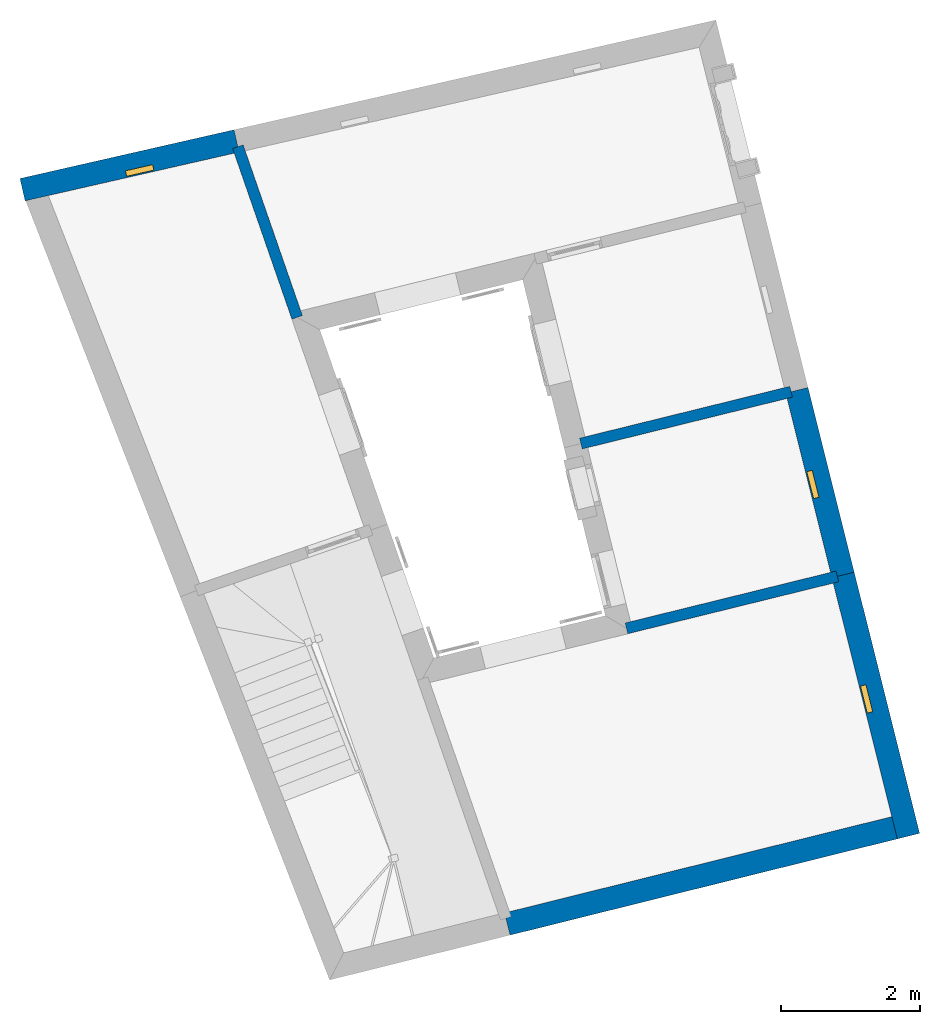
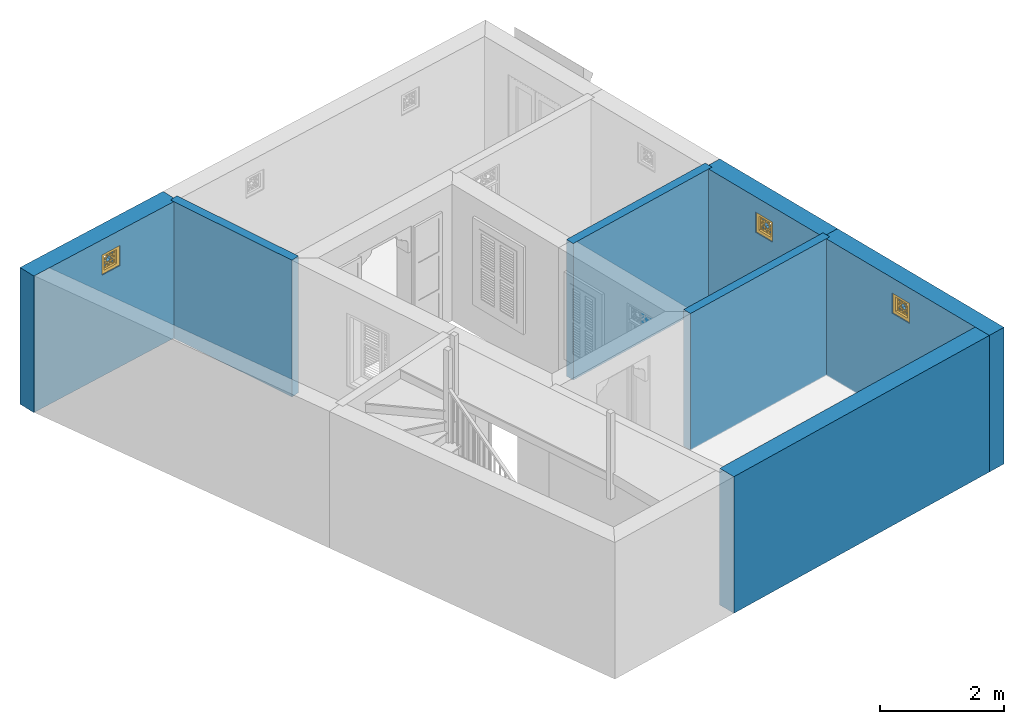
# One storey, part 6 of 12: 7 walls, 3 windows, 3 openings.
"""IFC4 building model written with IfcOpenShell, lengths in metres."""

from ifc_helpers import new_model, si_unit, frame, origin, origin_with_axes, place, context, subcontext, project, spatial, polyline, outline, extrude, faceted_brep, source, transform, mapped, material, layer, layer_set, layer_usage, type_object, type_shapes, element, fill, save


model = new_model("IFC4")

# Units and contexts
model_context = context("Model", 3, world=origin_with_axes())
body_context = subcontext(model_context, "Body", "Model", "MODEL_VIEW")
ifc_project = project(units=[si_unit("PLANEANGLEUNIT", "RADIAN"), si_unit("MASSUNIT", "GRAM", prefix="KILO"), si_unit("FORCEUNIT", "NEWTON", prefix="KILO"), si_unit("LENGTHUNIT", "METRE"), si_unit("AREAUNIT", "SQUARE_METRE"), si_unit("VOLUMEUNIT", "CUBIC_METRE")], contexts=[model_context, model_context])

# Site, building, storey
site_placement = place(None, origin_with_axes())
site = spatial("IfcSite", under=ifc_project, at=site_placement, Name="Site plot-1", CompositionType="ELEMENT")
building_placement = place(None, origin_with_axes())
building = spatial("IfcBuilding", under=site, at=building_placement, Name="Building plot-1", CompositionType="ELEMENT")
storey_placement = place(None, origin_with_axes())
storey = spatial("IfcBuildingStorey", under=building, at=storey_placement, Name="plot-1 0", CompositionType="ELEMENT", Elevation=0.0)

# Wall, opening, window
ifc_material_1 = material(Name="Masonry")
ifc_layer_1 = layer(ifc_material_1, 0.33, ventilated=False)
ifc_layer_set_1 = layer_set([ifc_layer_1], Name="exterior_0.08_0.25")
ifc_layer_usage_1 = layer_usage(ifc_layer_set_1, "AXIS2", "POSITIVE", -0.25)
wall_type_1 = type_object("IfcWallType", Name="exterior_0.08_0.25", PredefinedType="SOLIDWALL", material=ifc_layer_set_1)
wall_1_placement = place(storey_placement, frame((7.07192765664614, 15.8037351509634, 0.0), z_axis=(0.0, 0.0, 1.0), x_axis=(-0.242972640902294, 0.970033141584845, 0.0)))
wall_1 = element("IfcWall", 1, at=wall_1_placement, inside=storey, type_object=wall_type_1, material=ifc_layer_usage_1, Name="exterior", context=body_context, shape_type="SweptSolid", body=[
    extrude(outline(polyline([(-0.249999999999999, 0.0799999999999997), (-0.249999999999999, -0.25), (3.62583000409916, -0.25), (3.62583000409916, 0.08), (-0.249999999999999, 0.0799999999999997)])), origin_with_axes(), (0.0, 0.0, 1.0), 2.7),
])
opening_1_placement = place(wall_1_placement, frame((1.61291500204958, 0.0, 2.0)))
opening_1 = element("IfcOpeningElement", 2, at=opening_1_placement, cuts=wall_1, Name="My Opening", ObjectType="Opening", context=body_context, shape_type="SweptSolid", body=[
    extrude(outline(polyline([(0.0, -0.27), (0.399999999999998, -0.270000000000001), (0.399999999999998, 1.1), (-6.66133814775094e-16, 1.1), (0.0, -0.27)])), origin_with_axes(), (0.0, 0.0, 1.0), 0.4),
])
window_type = type_object("IfcWindowType", Name="barred_window", PartitioningType="DOUBLE_PANEL_HORIZONTAL", PredefinedType="NOTDEFINED")
shared_shape = source(origin(), body_context, "Body", "Brep", [
    faceted_brep([(0.4, 0.25, 0.4), (0.0, 0.25, 0.4), (0.06, 0.25, 0.34), (0.34, 0.25, 0.34), (0.06, 0.33, 0.34), (0.34, 0.33, 0.34), (0.34, 0.25, 0.06), (0.4, 0.25, 0.0), (0.4, 0.33, 0.4), (0.0, 0.33, 0.4), (0.0, 0.25, 0.0), (0.06, 0.25, 0.06), (0.06, 0.33, 0.06), (0.34, 0.33, 0.06), (0.4, 0.33, 0.0), (0.0, 0.33, 0.0), (0.136152, 0.28, 0.08), (0.08, 0.28, 0.08), (0.06, 0.28, 0.06), (0.136152, 0.28, 0.06), (0.136152, 0.29, 0.08), (0.08, 0.29, 0.08), (0.06, 0.28, 0.136152), (0.08, 0.28, 0.136152), (0.06, 0.29, 0.06), (0.136152, 0.29, 0.06), (0.170294, 0.28, 0.08), (0.170294, 0.28, 0.06), (0.136152, 0.28, 0.136152), (0.136152, 0.29, 0.136152), (0.08, 0.29, 0.136152), (0.06, 0.29, 0.136152), (0.08, 0.28, 0.170294), (0.06, 0.28, 0.170294), (0.170294, 0.29, 0.06), (0.229706, 0.28, 0.08), (0.229706, 0.28, 0.06), (0.156152, 0.28, 0.094142), (0.156152, 0.28, 0.136152), (0.185858, 0.28, 0.123848), (0.185858, 0.29, 0.123848), (0.156152, 0.29, 0.094142), (0.156152, 0.29, 0.136152), (0.229706, 0.29, 0.08), (0.170294, 0.29, 0.08), (0.2, 0.28, 0.109706), (0.2, 0.29, 0.109706), (0.06, 0.29, 0.170294), (0.094142, 0.28, 0.156152), (0.08, 0.28, 0.229706), (0.06, 0.28, 0.229706), (0.229706, 0.29, 0.06), (0.263848, 0.28, 0.08), (0.263848, 0.28, 0.06), (0.156152, 0.28, 0.156152), (0.136152, 0.28, 0.156152), (0.173553, 0.28, 0.136152), (0.173553, 0.29, 0.136152), (0.156152, 0.29, 0.156152), (0.136152, 0.29, 0.156152), (0.094142, 0.29, 0.156152), (0.08, 0.29, 0.170294), (0.06, 0.29, 0.229706), (0.123848, 0.28, 0.185858), (0.109706, 0.28, 0.2), (0.08, 0.29, 0.229706), (0.08, 0.28, 0.263848), (0.06, 0.28, 0.263848), (0.263848, 0.29, 0.06), (0.2, 0.28, 0.13799), (0.214142, 0.28, 0.123848), (0.34, 0.28, 0.06), (0.32, 0.28, 0.08), (0.181838, 0.28, 0.156152), (0.136152, 0.28, 0.173553), (0.156152, 0.28, 0.181838), (0.181838, 0.29, 0.156152), (0.2, 0.29, 0.13799), (0.214142, 0.29, 0.123848), (0.136152, 0.29, 0.173553), (0.156152, 0.29, 0.181838), (0.243848, 0.28, 0.094142), (0.243848, 0.29, 0.094142), (0.263848, 0.28, 0.136152), (0.263848, 0.29, 0.08), (0.263848, 0.29, 0.136152), (0.32, 0.29, 0.08), (0.243848, 0.28, 0.136152), (0.243848, 0.29, 0.136152), (0.06, 0.29, 0.263848), (0.123848, 0.29, 0.185858), (0.13799, 0.28, 0.2), (0.123848, 0.28, 0.214142), (0.109706, 0.29, 0.2), (0.094142, 0.28, 0.243848), (0.08, 0.28, 0.32), (0.06, 0.28, 0.34), (0.34, 0.29, 0.06), (0.218162, 0.28, 0.156152), (0.226447, 0.28, 0.136152), (0.34, 0.28, 0.229706), (0.32, 0.28, 0.229706), (0.32, 0.28, 0.170294), (0.32, 0.28, 0.136152), (0.218162, 0.29, 0.156152), (0.226447, 0.29, 0.136152), (0.13799, 0.29, 0.2), (0.32, 0.29, 0.136152), (0.08, 0.29, 0.263848), (0.06, 0.29, 0.34), (0.136152, 0.28, 0.226447), (0.156152, 0.28, 0.218162), (0.094142, 0.29, 0.243848), (0.123848, 0.29, 0.214142), (0.136152, 0.28, 0.243848), (0.136152, 0.28, 0.263848), (0.08, 0.29, 0.32), (0.136152, 0.28, 0.34), (0.136152, 0.28, 0.32), (0.34, 0.29, 0.229706), (0.243848, 0.28, 0.156152), (0.263848, 0.28, 0.156152), (0.34, 0.28, 0.263848), (0.32, 0.28, 0.263848), (0.32, 0.29, 0.229706), (0.32, 0.29, 0.170294), (0.290294, 0.28, 0.2), (0.276152, 0.28, 0.185858), (0.305858, 0.28, 0.156152), (0.243848, 0.29, 0.156152), (0.263848, 0.29, 0.156152), (0.305858, 0.29, 0.156152), (0.276152, 0.29, 0.185858), (0.290294, 0.29, 0.2), (0.136152, 0.29, 0.34), (0.136152, 0.29, 0.226447), (0.156152, 0.29, 0.218162), (0.156152, 0.28, 0.243848), (0.136152, 0.29, 0.243848), (0.156152, 0.28, 0.263848), (0.136152, 0.29, 0.263848), (0.136152, 0.29, 0.32), (0.170294, 0.28, 0.32), (0.170294, 0.28, 0.34), (0.34, 0.29, 0.263848), (0.243848, 0.28, 0.181838), (0.263848, 0.28, 0.173553), (0.34, 0.28, 0.34), (0.32, 0.28, 0.32), (0.305858, 0.28, 0.243848), (0.276152, 0.28, 0.214142), (0.26201, 0.28, 0.2), (0.243848, 0.29, 0.181838), (0.263848, 0.29, 0.173553), (0.26201, 0.29, 0.2), (0.276152, 0.29, 0.214142), (0.32, 0.29, 0.263848), (0.170294, 0.29, 0.34), (0.156152, 0.29, 0.243848), (0.173553, 0.28, 0.263848), (0.181838, 0.28, 0.243848), (0.156152, 0.28, 0.305858), (0.229706, 0.28, 0.32), (0.229706, 0.28, 0.34), (0.34, 0.29, 0.34), (0.263848, 0.28, 0.34), (0.263848, 0.28, 0.32), (0.32, 0.29, 0.32), (0.263848, 0.28, 0.263848), (0.263848, 0.28, 0.243848), (0.305858, 0.29, 0.243848), (0.263848, 0.28, 0.226447), (0.243848, 0.28, 0.218162), (0.243848, 0.29, 0.218162), (0.263848, 0.29, 0.226447), (0.156152, 0.29, 0.263848), (0.170294, 0.29, 0.32), (0.229706, 0.29, 0.34), (0.181838, 0.29, 0.243848), (0.173553, 0.29, 0.263848), (0.185858, 0.28, 0.276152), (0.2, 0.28, 0.26201), (0.156152, 0.29, 0.305858), (0.229706, 0.29, 0.32), (0.263848, 0.29, 0.34), (0.263848, 0.29, 0.32), (0.263848, 0.29, 0.263848), (0.243848, 0.28, 0.243848), (0.243848, 0.28, 0.263848), (0.263848, 0.29, 0.243848), (0.243848, 0.29, 0.243848), (0.2, 0.29, 0.26201), (0.185858, 0.29, 0.276152), (0.214142, 0.28, 0.276152), (0.218162, 0.28, 0.243848), (0.226447, 0.28, 0.263848), (0.243848, 0.28, 0.305858), (0.2, 0.28, 0.290294), (0.2, 0.29, 0.290294), (0.243848, 0.29, 0.263848), (0.218162, 0.29, 0.243848), (0.214142, 0.29, 0.276152), (0.226447, 0.29, 0.263848), (0.243848, 0.29, 0.305858)], [[[0, 1, 2, 3]], [[3, 2, 4, 5]], [[3, 6, 7, 0]], [[1, 0, 8, 9]], [[1, 10, 11, 2]], [[2, 11, 12, 4]], [[9, 8, 5, 4]], [[6, 3, 5, 13]], [[6, 11, 10, 7]], [[0, 7, 14, 8]], [[10, 1, 9, 15]], [[11, 6, 13, 12]], [[4, 12, 15, 9]], [[8, 14, 13, 5]], [[7, 10, 15, 14]], [[12, 13, 14, 15]], [[16, 17, 18, 19]], [[17, 16, 20, 21]], [[22, 18, 17, 23]], [[19, 18, 24, 25]], [[26, 16, 19, 27]], [[16, 28, 29, 20]], [[21, 20, 25, 24]], [[23, 17, 21, 30]], [[18, 22, 31, 24]], [[23, 32, 33, 22]], [[27, 19, 25, 34]], [[35, 26, 27, 36]], [[28, 16, 37, 38]], [[37, 39, 40, 41]], [[38, 37, 41, 42]], [[20, 29, 42, 41]], [[26, 35, 43, 44]], [[45, 26, 44, 46]], [[20, 44, 34, 25]], [[28, 23, 30, 29]], [[24, 31, 30, 21]], [[22, 33, 47, 31]], [[48, 32, 23]], [[32, 49, 50, 33]], [[36, 27, 34, 51]], [[39, 37, 26, 45]], [[52, 35, 36, 53]], [[38, 54, 55, 28]], [[39, 56, 57, 40]], [[41, 40, 46, 44]], [[56, 38, 42, 57]], [[58, 42, 29, 59]], [[35, 45, 46, 43]], [[44, 43, 51, 34]], [[23, 28, 55, 48]], [[29, 30, 60, 59]], [[61, 30, 31, 47]], [[33, 50, 62, 47]], [[48, 63, 64, 32]], [[49, 32, 61, 65]], [[49, 66, 67, 50]], [[53, 36, 51, 68]], [[69, 39, 45, 70]], [[53, 71, 72, 52]], [[73, 54, 38, 56]], [[74, 55, 54, 75]], [[56, 39, 69, 73]], [[40, 57, 76, 77]], [[40, 77, 78, 46]], [[58, 76, 57, 42]], [[59, 79, 80, 58]], [[45, 35, 81, 70]], [[43, 46, 78, 82]], [[83, 52, 84, 85]], [[82, 84, 43]], [[52, 72, 86, 84]], [[43, 84, 68, 51]], [[44, 20, 41]], [[70, 81, 82, 78]], [[81, 87, 88, 82]], [[48, 55, 59, 60]], [[61, 60, 30]], [[65, 61, 47, 62]], [[50, 67, 89, 62]], [[63, 48, 60, 90]], [[63, 91, 92, 64]], [[32, 64, 93, 61]], [[64, 49, 65, 93]], [[94, 66, 49]], [[66, 95, 96, 67]], [[71, 53, 68, 97]], [[98, 69, 70, 99]], [[81, 52, 83, 87]], [[72, 71, 100]], [[100, 101, 102]], [[103, 72, 100]], [[100, 102, 103]], [[54, 73, 76, 58]], [[55, 74, 79, 59]], [[75, 54, 58, 80]], [[63, 74, 75, 91]], [[73, 69, 77, 76]], [[77, 104, 105, 78]], [[79, 90, 106, 80]], [[84, 82, 88, 85]], [[103, 83, 85, 107]], [[72, 103, 107, 86]], [[97, 68, 84, 86]], [[99, 70, 78, 105]], [[87, 99, 105, 88]], [[90, 60, 61, 93]], [[108, 65, 62, 89]], [[67, 96, 109, 89]], [[74, 63, 90, 79]], [[110, 92, 91, 111]], [[49, 64, 92, 94]], [[93, 65, 112, 113]], [[94, 114, 115, 66]], [[95, 66, 108, 116]], [[117, 96, 95, 118]], [[100, 71, 97, 119]], [[69, 98, 104, 77]], [[99, 87, 120, 98]], [[87, 83, 121, 120]], [[101, 100, 122, 123]], [[102, 101, 124, 125]], [[121, 83, 103]], [[103, 102, 126]], [[126, 127, 128]], [[128, 121, 103]], [[103, 126, 128]], [[91, 75, 80, 106]], [[88, 105, 104, 129]], [[106, 90, 93, 113]], [[85, 88, 129, 130]], [[107, 85, 130]], [[131, 132, 133]], [[107, 130, 131]], [[133, 125, 107]], [[107, 131, 133]], [[124, 119, 97]], [[97, 86, 107]], [[107, 125, 124]], [[97, 107, 124]], [[108, 112, 65]], [[116, 108, 89, 109]], [[96, 117, 134, 109]], [[92, 110, 135, 113]], [[111, 91, 106, 136]], [[114, 110, 111, 137]], [[94, 92, 113, 112]], [[114, 94, 112, 138]], [[114, 137, 139, 115]], [[66, 115, 140, 108]], [[118, 95, 116, 141]], [[118, 142, 143, 117]], [[122, 100, 119, 144]], [[98, 120, 129, 104]], [[145, 120, 121, 146]], [[122, 147, 148, 123]], [[123, 149, 101]], [[101, 126, 133, 124]], [[126, 102, 125, 133]], [[127, 126, 150, 151]], [[128, 127, 132, 131]], [[121, 128, 131, 130]], [[113, 135, 136, 106]], [[129, 152, 153, 130]], [[133, 132, 154, 155]], [[119, 124, 156, 144]], [[138, 112, 108, 140]], [[109, 134, 141, 116]], [[117, 143, 157, 134]], [[110, 114, 138, 135]], [[137, 111, 136, 158]], [[159, 139, 137, 160]], [[118, 115, 139, 161]], [[115, 118, 141, 140]], [[161, 142, 118]], [[162, 163, 143, 142]], [[147, 122, 144, 164]], [[120, 145, 152, 129]], [[146, 121, 130, 153]], [[146, 127, 151, 145]], [[147, 165, 166, 148]], [[123, 148, 167, 156]], [[149, 123, 168, 169]], [[149, 150, 126, 101]], [[155, 170, 124, 133]], [[151, 150, 171, 172]], [[127, 146, 153, 132]], [[135, 138, 158, 136]], [[132, 153, 152, 154]], [[155, 154, 173, 174]], [[170, 156, 124]], [[164, 144, 156, 167]], [[158, 138, 140, 175]], [[176, 141, 134, 157]], [[143, 163, 177, 157]], [[160, 137, 158, 178]], [[139, 159, 179, 175]], [[180, 159, 160, 181]], [[161, 139, 175, 182]], [[140, 141, 182, 175]], [[166, 165, 163, 162]], [[162, 142, 176, 183]], [[165, 147, 164, 184]], [[145, 151, 154, 152]], [[148, 166, 185, 167]], [[156, 186, 168, 123]], [[187, 169, 168, 188]], [[149, 169, 189, 170]], [[150, 149, 170, 155]], [[171, 150, 155, 174]], [[171, 169, 187, 172]], [[151, 172, 173, 154]], [[189, 174, 173, 190]], [[156, 170, 189, 186]], [[184, 164, 167, 185]], [[175, 179, 178, 158]], [[176, 182, 141]], [[177, 183, 176, 157]], [[163, 165, 184, 177]], [[181, 160, 178, 191]], [[159, 180, 192, 179]], [[180, 161, 182, 192]], [[193, 181, 194, 195]], [[196, 162, 197, 193]], [[180, 197, 142, 161]], [[197, 180, 181, 193]], [[142, 197, 198, 176]], [[162, 196, 166]], [[35, 52, 81]], [[197, 162, 183, 198]], [[185, 166, 168, 186]], [[196, 188, 168, 166]], [[187, 188, 195, 194]], [[169, 171, 174, 189]], [[172, 187, 190, 173]], [[189, 190, 199, 186]], [[184, 185, 183, 177]], [[179, 192, 191, 178]], [[176, 198, 192, 182]], [[194, 181, 191, 200]], [[191, 192, 198, 201]], [[26, 37, 16]], [[193, 195, 202, 201]], [[196, 193, 201, 203]], [[191, 201, 202, 200]], [[183, 203, 201, 198]], [[188, 196, 203, 199]], [[203, 183, 185]], [[199, 203, 185, 186]], [[195, 188, 199, 202]], [[187, 194, 200, 190]], [[199, 190, 200, 202]]]),
])
type_shapes(window_type, [shared_shape])
window_1_placement = place(storey_placement, frame((6.94194238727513, 17.4339187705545, 2.0), z_axis=(0.0, 0.0, 1.0), x_axis=(-0.097189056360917, 0.388013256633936, 0.0)))
window_1 = element("IfcWindow", 3, at=window_1_placement, inside=storey, type_object=window_type, Name="living street window", OverallHeight=0.4, OverallWidth=0.4, context=body_context, shape_type="MappedRepresentation", body=[
    mapped(shared_shape, transform((0.0, 0.0, 0.0), scale=1.0)),
])
fill(opening_1, window_1)

wall_2_placement = place(storey_placement, frame((6.19095016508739, 19.3209104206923, 0.0), z_axis=(0.0, 0.0, 1.0), x_axis=(-0.242972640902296, 0.970033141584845, 0.0)))
wall_2 = element("IfcWall", 4, at=wall_2_placement, inside=storey, type_object=wall_type_1, material=ifc_layer_usage_1, Name="exterior", context=body_context, shape_type="SweptSolid", body=[
    extrude(outline(polyline([(1.64770702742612e-16, 0.0800000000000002), (-4.28781124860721e-16, -0.25), (2.74091515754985, -0.25), (2.74091515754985, 0.0800000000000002), (1.64770702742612e-16, 0.0800000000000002)])), origin_with_axes(), (0.0, 0.0, 1.0), 2.7),
])
opening_2_placement = place(wall_2_placement, frame((1.17045757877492, 0.0, 2.0)))
opening_2 = element("IfcOpeningElement", 5, at=opening_2_placement, cuts=wall_2, Name="My Opening", ObjectType="Opening", context=body_context, shape_type="SweptSolid", body=[
    extrude(outline(polyline([(0.0, -0.269999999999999), (0.400000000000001, -0.27), (0.400000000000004, 1.1), (1.77635683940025e-15, 1.1), (0.0, -0.269999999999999)])), origin_with_axes(), (0.0, 0.0, 1.0), 0.4),
])
window_2_placement = place(storey_placement, frame((6.16846994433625, 20.5218956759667, 2.0), z_axis=(0.0, 0.0, 1.0), x_axis=(-0.0971890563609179, 0.38801325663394, 0.0)))
window_2 = element("IfcWindow", 6, at=window_2_placement, inside=storey, type_object=window_type, Name="toilet street window", OverallHeight=0.4, OverallWidth=0.4, context=body_context, shape_type="MappedRepresentation", body=[
    mapped(shared_shape, transform((0.0, 0.0, 0.0), scale=1.0)),
])
fill(opening_2, window_2)

wall_3_placement = place(storey_placement, frame((-2.44105728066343, 25.5084926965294, 0.0), z_axis=(0.0, 0.0, 1.0), x_axis=(-0.975027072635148, -0.222086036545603, 0.0)))
wall_3 = element("IfcWall", 7, at=wall_3_placement, inside=storey, type_object=wall_type_1, material=ifc_layer_usage_1, Name="exterior", context=body_context, shape_type="SweptSolid", body=[
    extrude(outline(polyline([(-1.43578123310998e-15, 0.0800000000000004), (4.23415557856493e-15, -0.25), (3.16052155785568, -0.249999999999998), (3.16052155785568, 0.080000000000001), (-1.43578123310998e-15, 0.0800000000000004)])), origin_with_axes(), (0.0, 0.0, 1.0), 2.7),
])
opening_3_placement = place(wall_3_placement, frame((1.25526077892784, 0.0, 2.0)))
opening_3 = element("IfcOpeningElement", 8, at=opening_3_placement, cuts=wall_3, Name="My Opening", ObjectType="Opening", context=body_context, shape_type="SweptSolid", body=[
    extrude(outline(polyline([(0.0, -0.269999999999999), (0.399999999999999, -0.269999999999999), (0.4, 1.1), (0.0, 1.1), (0.0, -0.269999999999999)])), origin_with_axes(), (0.0, 0.0, 1.0), 0.4),
])
window_3_placement = place(storey_placement, frame((-3.72493375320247, 25.4929741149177, 2.0), z_axis=(0.0, 0.0, 1.0), x_axis=(-0.390010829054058, -0.0888344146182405, 0.0)))
window_3 = element("IfcWindow", 9, at=window_3_placement, inside=storey, type_object=window_type, Name="bedroom street window", OverallHeight=0.4, OverallWidth=0.4, context=body_context, shape_type="MappedRepresentation", body=[
    mapped(shared_shape, transform((0.0, 0.0, 0.0), scale=1.0)),
])
fill(opening_3, window_3)

# Walls
ifc_material_2 = material(Name="Masonry")
ifc_layer_2 = layer(ifc_material_2, 0.33, ventilated=False)
ifc_layer_set_2 = layer_set([ifc_layer_2], Name="party_0.08_0.25")
ifc_layer_usage_2 = layer_usage(ifc_layer_set_2, "AXIS2", "POSITIVE", -0.25)
wall_type_2 = type_object("IfcWallType", Name="party_0.08_0.25", PredefinedType="SOLIDWALL", material=ifc_layer_set_2)
wall_4_placement = place(storey_placement, frame((1.41761374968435, 14.3983382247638, 0.0), z_axis=(0.0, 0.0, 1.0), x_axis=(0.97047200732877, 0.241213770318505, 0.0)))
element("IfcWall", 10, at=wall_4_placement, inside=storey, type_object=wall_type_2, material=ifc_layer_usage_2, Name="party", context=body_context, shape_type="SweptSolid", body=[
    extrude(outline(polyline([(1.55032903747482e-15, 0.0800000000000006), (-4.48109516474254e-15, -0.25), (5.82635445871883, -0.250000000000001), (5.82635445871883, 0.079999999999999), (1.55032903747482e-15, 0.0800000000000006)])), origin_with_axes(), (0.0, 0.0, 1.0), 2.7),
])
ifc_material_3 = material(Name="Masonry")
ifc_layer_3 = layer(ifc_material_3, 0.16, ventilated=False)
ifc_layer_set_3 = layer_set([ifc_layer_3], Name="interior_0.08_0.08")
ifc_layer_usage_3 = layer_usage(ifc_layer_set_3, "AXIS2", "POSITIVE", -0.08)
wall_type_3 = type_object("IfcWallType", Name="interior_0.08_0.08", PredefinedType="SOLIDWALL", material=ifc_layer_set_3)
wall_5_placement = place(storey_placement, frame((-1.5872585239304, 23.0501758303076, 0.0), z_axis=(0.0, 0.0, 1.0), x_axis=(-0.328085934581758, 0.94464788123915, 0.0)))
element("IfcWall", 11, at=wall_5_placement, inside=storey, type_object=wall_type_3, material=ifc_layer_usage_3, Name="interior", context=body_context, shape_type="SweptSolid", body=[
    extrude(outline(polyline([(-1.59382256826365e-15, 0.0800000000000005), (1.60361974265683e-15, -0.0800000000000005), (2.60236318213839, -0.0800000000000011), (2.60236318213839, 0.0800000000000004), (-1.59382256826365e-15, 0.0800000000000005)])), origin_with_axes(), (0.0, 0.0, 1.0), 2.7),
])
wall_6_placement = place(storey_placement, frame((2.49804151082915, 21.2338836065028, 0.0), z_axis=(0.0, 0.0, 1.0), x_axis=(0.970961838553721, 0.239234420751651, 0.0)))
element("IfcWall", 12, at=wall_6_placement, inside=storey, type_object=wall_type_3, material=ifc_layer_usage_3, Name="interior", context=body_context, shape_type="SweptSolid", body=[
    extrude(outline(polyline([(5.02278502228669e-16, 0.0800000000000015), (-4.9248132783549e-16, -0.0800000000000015), (3.11746676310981, -0.0800000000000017), (3.11746676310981, 0.0800000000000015), (5.02278502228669e-16, 0.0800000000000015)])), origin_with_axes(), (0.0, 0.0, 1.0), 2.7),
])
wall_7_placement = place(storey_placement, frame((6.19095016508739, 19.3209104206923, 0.0), z_axis=(0.0, 0.0, 1.0), x_axis=(-0.97096183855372, -0.239234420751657, 0.0)))
element("IfcWall", 13, at=wall_7_placement, inside=storey, type_object=wall_type_3, material=ifc_layer_usage_3, Name="interior", context=body_context, shape_type="SweptSolid", body=[
    extrude(outline(polyline([(5.53738427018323e-16, 0.0800000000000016), (-5.28008464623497e-16, -0.0800000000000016), (3.12802434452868, -0.0800000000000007), (3.12802434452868, 0.0800000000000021), (5.53738427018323e-16, 0.0800000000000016)])), origin_with_axes(), (0.0, 0.0, 1.0), 2.7),
])

save(model, "model.ifc")
